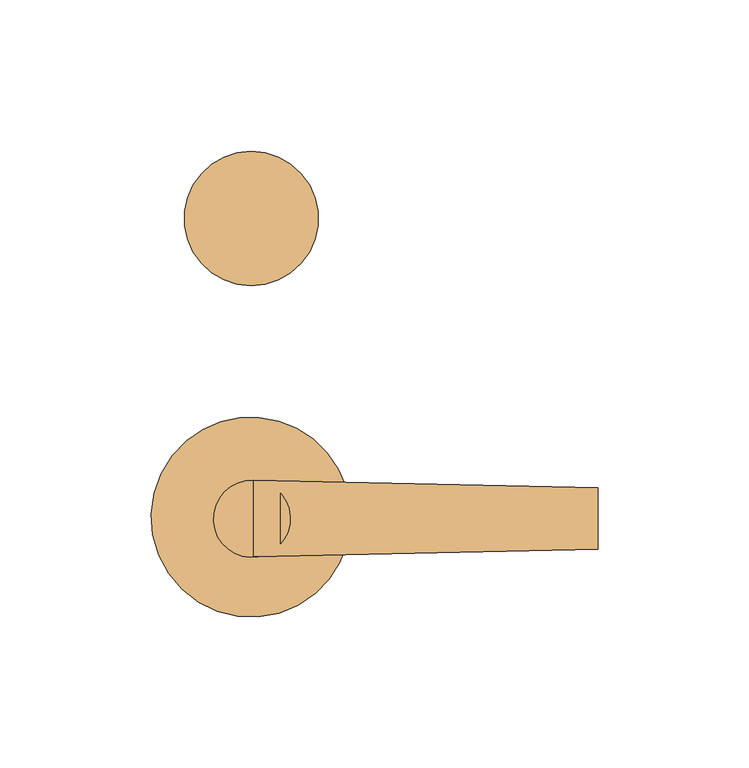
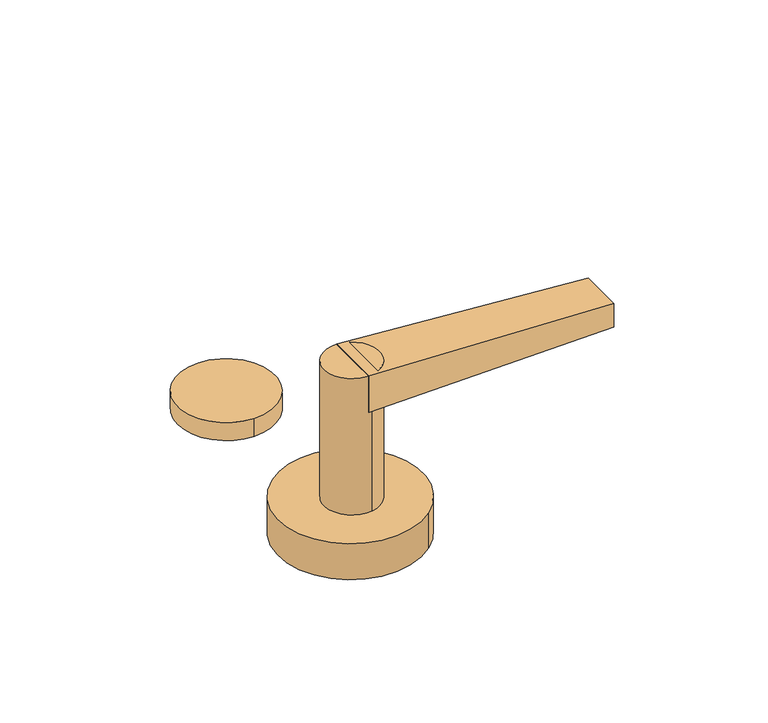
"""IFC4 building model written with IfcOpenShell, lengths in millimetres: door geometry, Door_Handle-Teknion-FHHSL-Schlage L Series(Child) : (3) Office and Inner Entrance Lock w/Interchangeable core keyway w/ADA thumbturn."""

from ifc_helpers import new_model, si_unit, point, frame, frame_2d, origin, origin_with_axes, place, context, project, spatial, circle_curve, trimmed, segment, composite_curve, outline, extrude, source, transform, mapped, element, save
from ifc_brep_helpers import plane_surface, spline_surface, advanced_brep


def door_e5c2c9b1(model_context):
    return source(origin(), model_context, "Body", "SolidModel", [
        extrude(outline(composite_curve([segment(trimmed(circle_curve(frame_2d((-1.5048449, 99.4936932)), 22.212872), [point((-1.5048449, 121.7065651))], [point((-1.5048449, 77.2808212))], False, "CARTESIAN"), True, "CONTINUOUS"), segment(trimmed(circle_curve(frame_2d((-1.5048449, 99.4936932)), 22.212872), [point((-1.5048449, 77.2808212))], [point((-1.5048449, 121.7065651))], False, "CARTESIAN"), True, "CONTINUOUS")], self_intersect=False)), origin_with_axes(), (0.0, 0.0, 1.0), 8.636),
        advanced_brep(
        [(113.0826159, -9.8661661, 77.089), (113.0826159, -9.8661661, 65.659), (113.0826159, 10.4783486, 65.659), (113.0826159, 10.4783486, 77.089), (-0.79375, -12.3783123, 83.439), (-0.79375, 13.0118705, 83.439), (-0.79375, 13.0089229, 65.659), (-0.79375, -12.378509, 65.659)],
        [
            (0, 1),
            (1, 2),
            (2, 3),
            (3, 0),
            (4, 5),
            (5, 6),
            (6, 7),
            (7, 4),
            (7, 1),
            (0, 4),
            (6, 2),
            (5, 3),
        ],
        [
            plane_surface(frame((113.0826159, 0.3060912, 71.374), z_axis=(1.0, 0.0, 0.0), x_axis=(0.0, -1.0, 0.0))),
            plane_surface(frame((-0.79375, 0.315993, 74.549), z_axis=(-1.0000000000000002, 0.0, 0.0), x_axis=(0.0, -1.1064247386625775e-05, -0.9999999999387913))),
            spline_surface(1, 1, [[(-0.79375, -12.3783123, 83.439), (113.0826159, -9.8661661, 77.089)], [(-0.79375, -12.378509, 65.659), (113.0826159, -9.8661661, 65.659)]], [2, 2], [2, 2], [0.0, 1.0], [0.0, 1.0]),
            plane_surface(frame((-0.79375, 0.315207, 65.659), z_axis=(0.0, 0.0, -1.0), x_axis=(0.0, 1.0, 0.0))),
            spline_surface(1, 1, [[(-0.79375, 13.0089229, 65.659), (113.0826159, 10.4783486, 65.659)], [(-0.79375, 13.0118705, 83.439), (113.0826159, 10.4783486, 77.089)]], [2, 2], [2, 2], [0.0, 1.0], [0.0, 1.0]),
            plane_surface(frame((-0.79375, 0.3167791, 83.439), z_axis=(0.05567573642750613, 0.0, 0.9984489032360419), x_axis=(0.0, -1.0, 0.0))),
        ],
        [
            (0, [[1, 2, 3, 4]]),
            (1, [[5, 6, 7, 8]]),
            (2, [[-8, 9, -1, 10]]),
            (3, [[-7, 11, -2, -9]]),
            (4, [[-6, 12, -3, -11]]),
            (5, [[-5, -10, -4, -12]]),
        ],
    ),
        extrude(outline(composite_curve([segment(trimmed(circle_curve(frame_2d((-1.3064074, 0.1984375)), 12.7), [point((-3.427265, 12.7200973))], [point((0.8144502, -12.3232223))], False, "CARTESIAN"), True, "CONTINUOUS"), segment(trimmed(circle_curve(frame_2d((-1.3064074, 0.1984375)), 12.7), [point((0.8144502, -12.3232223))], [point((-3.427265, 12.7200973))], False, "CARTESIAN"), True, "CONTINUOUS")], self_intersect=False)), frame((0.0, 0.0, 17.399), z_axis=(0.0, 0.0, 1.0), x_axis=(1.0, 0.0, 0.0)), (0.0, 0.0, 1.0), 66.04),
        extrude(outline(composite_curve([segment(trimmed(circle_curve(frame_2d((-1.6178614, 0.7745191)), 33.02), [point((-22.9508261, 25.9781898))], [point((19.7151032, -24.4291516))], False, "CARTESIAN"), True, "CONTINUOUS"), segment(trimmed(circle_curve(frame_2d((-1.6178614, 0.7745191)), 33.02), [point((19.7151032, -24.4291516))], [point((-22.9508261, 25.9781898))], False, "CARTESIAN"), True, "CONTINUOUS")], self_intersect=False)), origin_with_axes(), (0.0, 0.0, 1.0), 17.399),
    ])


if __name__ == "__main__":
    model = new_model("IFC4")
    model_context = context("Model", 3, world=origin())
    ifc_project = project(units=[si_unit("LENGTHUNIT", "METRE", prefix="MILLI")], contexts=[model_context])
    site = spatial("IfcSite", under=ifc_project)
    building = spatial("IfcBuilding", under=site)
    placement = place(None, origin())
    door_shape = door_e5c2c9b1(model_context)
    element("IfcDoor", 1, ObjectType="Door_Handle-Teknion-FHHSL-Schlage L Series(Child) : (3) Office and Inner Entrance Lock w/Interchangeable core keyway w/ADA thumbturn", at=placement, inside=building, context=model_context, shape_type="MappedRepresentation", body=[
        mapped(door_shape, transform((0.0, 0.0, 0.0), x_axis=(1.0, 0.0, 0.0), y_axis=(0.0, 1.0, 0.0), z_axis=(0.0, 0.0, 1.0))),
    ])
    save(model, "model.ifc")
